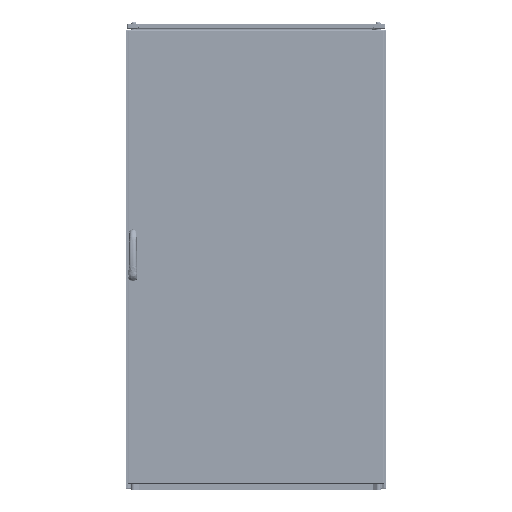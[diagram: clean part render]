
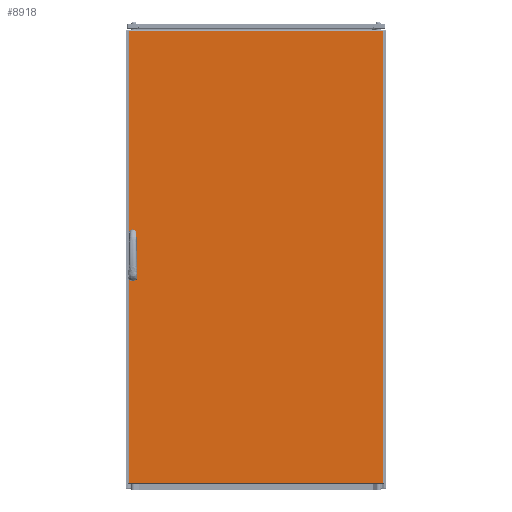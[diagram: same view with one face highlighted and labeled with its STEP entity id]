
A CAD part, top view. The second image highlights one B-rep face of the part: STEP entity #8918.
In plain terms, the highlighted planar face has unit normal (0, 0, 1).
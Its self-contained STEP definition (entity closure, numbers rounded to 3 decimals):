
#526 = DIRECTION ( 'NONE',  ( -1., 0., 0. ) ) ;
#2303 = CIRCLE ( 'NONE', #288994, 9.5 ) ;
#3339 = ORIENTED_EDGE ( 'NONE', *, *, #127834, .F. ) ;
#7587 = CARTESIAN_POINT ( 'NONE',  ( 3., 3., 19. ) ) ;
#8918 = ADVANCED_FACE ( 'NONE', ( #127505, #332500, #51276 ), #154598, .F. ) ;
#11702 = CARTESIAN_POINT ( 'NONE',  ( 9.7, 912.25, 19. ) ) ;
#13202 = DIRECTION ( 'NONE',  ( 1., 0., 0. ) ) ;
#14239 = VECTOR ( 'NONE', #185461, 1000. ) ;
#17497 = AXIS2_PLACEMENT_3D ( 'NONE', #45248, #300990, #13202 ) ;
#19277 = EDGE_CURVE ( 'NONE', #128381, #87596, #171556, .T. ) ;
#19797 = CARTESIAN_POINT ( 'NONE',  ( 9.7, 847.75, 19. ) ) ;
#21748 = LINE ( 'NONE', #206249, #323837 ) ;
#28750 = AXIS2_PLACEMENT_3D ( 'NONE', #257904, #232487, #526 ) ;
#28851 = ORIENTED_EDGE ( 'NONE', *, *, #19277, .T. ) ;
#29899 = VECTOR ( 'NONE', #202964, 1000. ) ;
#30551 = CARTESIAN_POINT ( 'NONE',  ( 0., 3., 19. ) ) ;
#35513 = VERTEX_POINT ( 'NONE', #170379 ) ;
#44036 = CARTESIAN_POINT ( 'NONE',  ( 19.2, 799.75, 19. ) ) ;
#45248 = CARTESIAN_POINT ( 'NONE',  ( 19.2, 847.75, 19. ) ) ;
#45527 = CARTESIAN_POINT ( 'NONE',  ( 9.7, 847.75, 19. ) ) ;
#46259 = ORIENTED_EDGE ( 'NONE', *, *, #273061, .F. ) ;
#50458 = DIRECTION ( 'NONE',  ( 0., -1., 0. ) ) ;
#51276 = FACE_OUTER_BOUND ( 'NONE', #92090, .T. ) ;
#57165 = AXIS2_PLACEMENT_3D ( 'NONE', #44036, #147321, #156914 ) ;
#57593 = DIRECTION ( 'NONE',  ( 1., 0., 0. ) ) ;
#61937 = ORIENTED_EDGE ( 'NONE', *, *, #334515, .F. ) ;
#69222 = CARTESIAN_POINT ( 'NONE',  ( 28.7, 912.25, 19. ) ) ;
#69981 = CARTESIAN_POINT ( 'NONE',  ( 9.7, 960.25, 19. ) ) ;
#75096 = EDGE_CURVE ( 'NONE', #169454, #35513, #254153, .T. ) ;
#84695 = ORIENTED_EDGE ( 'NONE', *, *, #153609, .T. ) ;
#85280 = EDGE_CURVE ( 'NONE', #249613, #257478, #2303, .T. ) ;
#87596 = VERTEX_POINT ( 'NONE', #179205 ) ;
#90179 = VERTEX_POINT ( 'NONE', #7587 ) ;
#92090 = EDGE_LOOP ( 'NONE', ( #214401, #28851, #178119, #84695 ) ) ;
#92364 = VECTOR ( 'NONE', #259937, 1000. ) ;
#92971 = DIRECTION ( 'NONE',  ( 1., 0., 0. ) ) ;
#122080 = VERTEX_POINT ( 'NONE', #191316 ) ;
#122268 = VERTEX_POINT ( 'NONE', #69222 ) ;
#123996 = ORIENTED_EDGE ( 'NONE', *, *, #85280, .F. ) ;
#124760 = EDGE_CURVE ( 'NONE', #122080, #128381, #258328, .T. ) ;
#127505 = FACE_BOUND ( 'NONE', #128130, .T. ) ;
#127834 = EDGE_CURVE ( 'NONE', #35513, #301436, #136404, .T. ) ;
#128130 = EDGE_LOOP ( 'NONE', ( #138329, #3339, #323204, #289987 ) ) ;
#128381 = VERTEX_POINT ( 'NONE', #251450 ) ;
#128941 = CARTESIAN_POINT ( 'NONE',  ( 19.2, 912.25, 19. ) ) ;
#135481 = LINE ( 'NONE', #30551, #199568 ) ;
#135853 = EDGE_CURVE ( 'NONE', #301436, #173043, #145476, .T. ) ;
#136404 = CIRCLE ( 'NONE', #17497, 9.5 ) ;
#138329 = ORIENTED_EDGE ( 'NONE', *, *, #135853, .F. ) ;
#143935 = EDGE_CURVE ( 'NONE', #173043, #169454, #327478, .T. ) ;
#145476 = LINE ( 'NONE', #45527, #29899 ) ;
#147321 = DIRECTION ( 'NONE',  ( 0., 0., 1. ) ) ;
#153609 = EDGE_CURVE ( 'NONE', #90179, #122080, #135481, .T. ) ;
#154598 = PLANE ( 'NONE',  #28750 ) ;
#156914 = DIRECTION ( 'NONE',  ( 1., 0., 0. ) ) ;
#165005 = VECTOR ( 'NONE', #228754, 1000. ) ;
#168243 = DIRECTION ( 'NONE',  ( -1., 0., 0. ) ) ;
#168910 = VECTOR ( 'NONE', #168243, 1000. ) ;
#169454 = VERTEX_POINT ( 'NONE', #282438 ) ;
#170379 = CARTESIAN_POINT ( 'NONE',  ( 28.7, 847.75, 19. ) ) ;
#171556 = LINE ( 'NONE', #269866, #168910 ) ;
#173043 = VERTEX_POINT ( 'NONE', #299961 ) ;
#178119 = ORIENTED_EDGE ( 'NONE', *, *, #311055, .T. ) ;
#179205 = CARTESIAN_POINT ( 'NONE',  ( 3., 1757., 19. ) ) ;
#182039 = CARTESIAN_POINT ( 'NONE',  ( 9.7, 960.25, 19. ) ) ;
#183117 = DIRECTION ( 'NONE',  ( 1., 0., 0. ) ) ;
#185461 = DIRECTION ( 'NONE',  ( 0., 1., 0. ) ) ;
#190080 = CIRCLE ( 'NONE', #319945, 9.5 ) ;
#191316 = CARTESIAN_POINT ( 'NONE',  ( 992., 3., 19. ) ) ;
#199568 = VECTOR ( 'NONE', #57593, 1000. ) ;
#201275 = DIRECTION ( 'NONE',  ( 0., 0., 1. ) ) ;
#202964 = DIRECTION ( 'NONE',  ( 0., -1., 0. ) ) ;
#206249 = CARTESIAN_POINT ( 'NONE',  ( 3., 1760., 19. ) ) ;
#210186 = DIRECTION ( 'NONE',  ( 0., 0., 1. ) ) ;
#214401 = ORIENTED_EDGE ( 'NONE', *, *, #124760, .T. ) ;
#220958 = CARTESIAN_POINT ( 'NONE',  ( 28.7, 960.25, 19. ) ) ;
#228754 = DIRECTION ( 'NONE',  ( 0., 1., 0. ) ) ;
#231259 = CARTESIAN_POINT ( 'NONE',  ( 992., 1760., 19. ) ) ;
#232487 = DIRECTION ( 'NONE',  ( 0., 0., -1. ) ) ;
#237929 = DIRECTION ( 'NONE',  ( 0., 1., 0. ) ) ;
#249613 = VERTEX_POINT ( 'NONE', #220958 ) ;
#249664 = EDGE_LOOP ( 'NONE', ( #251371, #123996, #61937, #46259 ) ) ;
#250834 = CARTESIAN_POINT ( 'NONE',  ( 28.7, 847.75, 19. ) ) ;
#251371 = ORIENTED_EDGE ( 'NONE', *, *, #320183, .F. ) ;
#251450 = CARTESIAN_POINT ( 'NONE',  ( 992., 1757., 19. ) ) ;
#254153 = LINE ( 'NONE', #250834, #165005 ) ;
#257478 = VERTEX_POINT ( 'NONE', #69981 ) ;
#257904 = CARTESIAN_POINT ( 'NONE',  ( 0., 1760., 19. ) ) ;
#258328 = LINE ( 'NONE', #231259, #14239 ) ;
#259937 = DIRECTION ( 'NONE',  ( 0., -1., 0. ) ) ;
#263322 = LINE ( 'NONE', #334607, #275573 ) ;
#269866 = CARTESIAN_POINT ( 'NONE',  ( 0., 1757., 19. ) ) ;
#273061 = EDGE_CURVE ( 'NONE', #284624, #122268, #190080, .T. ) ;
#275573 = VECTOR ( 'NONE', #237929, 1000. ) ;
#282438 = CARTESIAN_POINT ( 'NONE',  ( 28.7, 799.75, 19. ) ) ;
#284624 = VERTEX_POINT ( 'NONE', #11702 ) ;
#288994 = AXIS2_PLACEMENT_3D ( 'NONE', #331677, #201275, #92971 ) ;
#289987 = ORIENTED_EDGE ( 'NONE', *, *, #143935, .F. ) ;
#299961 = CARTESIAN_POINT ( 'NONE',  ( 9.7, 799.75, 19. ) ) ;
#300990 = DIRECTION ( 'NONE',  ( 0., 0., 1. ) ) ;
#301436 = VERTEX_POINT ( 'NONE', #19797 ) ;
#307456 = LINE ( 'NONE', #182039, #92364 ) ;
#311055 = EDGE_CURVE ( 'NONE', #87596, #90179, #21748, .T. ) ;
#319945 = AXIS2_PLACEMENT_3D ( 'NONE', #128941, #210186, #183117 ) ;
#320183 = EDGE_CURVE ( 'NONE', #257478, #284624, #307456, .T. ) ;
#323204 = ORIENTED_EDGE ( 'NONE', *, *, #75096, .F. ) ;
#323837 = VECTOR ( 'NONE', #50458, 1000. ) ;
#327478 = CIRCLE ( 'NONE', #57165, 9.5 ) ;
#331677 = CARTESIAN_POINT ( 'NONE',  ( 19.2, 960.25, 19. ) ) ;
#332500 = FACE_BOUND ( 'NONE', #249664, .T. ) ;
#334515 = EDGE_CURVE ( 'NONE', #122268, #249613, #263322, .T. ) ;
#334607 = CARTESIAN_POINT ( 'NONE',  ( 28.7, 960.25, 19. ) ) ;
